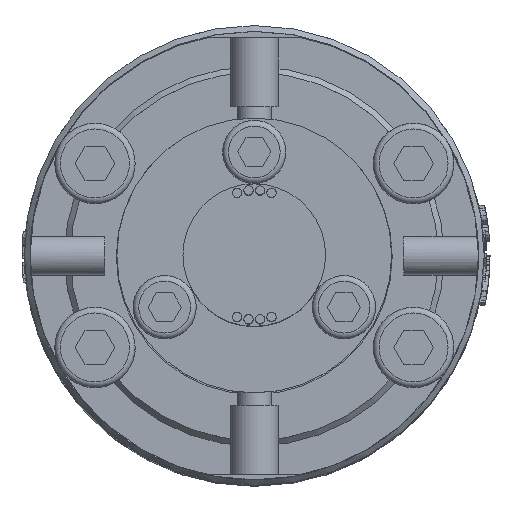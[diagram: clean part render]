
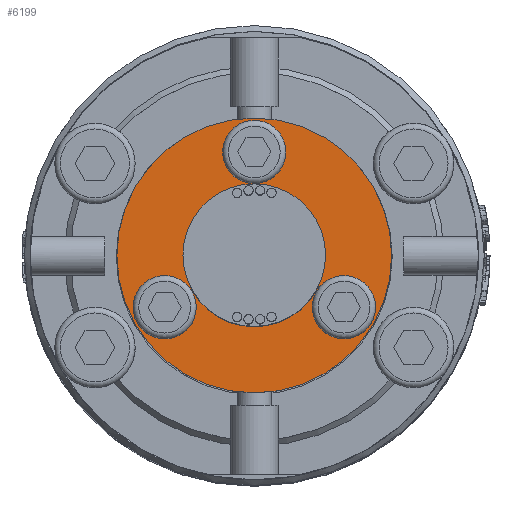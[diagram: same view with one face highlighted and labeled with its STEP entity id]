
A CAD part, top view. The second image highlights one B-rep face of the part: STEP entity #6199.
In plain terms, the highlighted planar face has unit normal (0, 0, 1).
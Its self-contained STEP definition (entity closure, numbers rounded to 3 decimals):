
#6199=ADVANCED_FACE('',(#7846,#7847,#7848,#7849,#7850),#7344,.T.);
#7344=PLANE('',#20862);
#7846=FACE_BOUND('',#8237,.T.);
#7847=FACE_BOUND('',#8238,.T.);
#7848=FACE_BOUND('',#8239,.T.);
#7849=FACE_BOUND('',#8240,.T.);
#7850=FACE_BOUND('',#8241,.T.);
#8237=EDGE_LOOP('',(#9736));
#8238=EDGE_LOOP('',(#9737));
#8239=EDGE_LOOP('',(#9738));
#8240=EDGE_LOOP('',(#9739));
#8241=EDGE_LOOP('',(#9740));
#9736=ORIENTED_EDGE('',*,*,#17651,.F.);
#9737=ORIENTED_EDGE('',*,*,#17652,.F.);
#9738=ORIENTED_EDGE('',*,*,#17653,.F.);
#9739=ORIENTED_EDGE('',*,*,#17650,.F.);
#9740=ORIENTED_EDGE('',*,*,#17654,.F.);
#15582=VERTEX_POINT('',#24843);
#15583=VERTEX_POINT('',#24846);
#15584=VERTEX_POINT('',#24848);
#15585=VERTEX_POINT('',#24850);
#15586=VERTEX_POINT('',#24852);
#17650=EDGE_CURVE('',#15582,#15582,#20569,.T.);
#17651=EDGE_CURVE('',#15583,#15583,#20570,.T.);
#17652=EDGE_CURVE('',#15584,#15584,#20571,.T.);
#17653=EDGE_CURVE('',#15585,#15585,#20572,.T.);
#17654=EDGE_CURVE('',#15586,#15586,#20573,.T.);
#20569=CIRCLE('',#20856,6.2);
#20570=CIRCLE('',#20858,2.75);
#20571=CIRCLE('',#20859,2.75);
#20572=CIRCLE('',#20860,2.75);
#20573=CIRCLE('',#20861,11.95);
#20856=AXIS2_PLACEMENT_3D('',#24842,#21945,#21946);
#20858=AXIS2_PLACEMENT_3D('',#24845,#21949,#21950);
#20859=AXIS2_PLACEMENT_3D('',#24847,#21951,#21952);
#20860=AXIS2_PLACEMENT_3D('',#24849,#21953,#21954);
#20861=AXIS2_PLACEMENT_3D('',#24851,#21955,#21956);
#20862=AXIS2_PLACEMENT_3D('',#24853,#21957,#21958);
#21945=DIRECTION('',(0.,0.,1.));
#21946=DIRECTION('',(0.,1.,0.));
#21949=DIRECTION('',(0.,0.,1.));
#21950=DIRECTION('',(1.,0.,0.));
#21951=DIRECTION('',(0.,0.,1.));
#21952=DIRECTION('',(-0.5,0.866,0.));
#21953=DIRECTION('',(0.,0.,1.));
#21954=DIRECTION('',(-0.5,-0.866,0.));
#21955=DIRECTION('',(0.,0.,-1.));
#21956=DIRECTION('',(0.,1.,0.));
#21957=DIRECTION('',(0.,0.,1.));
#21958=DIRECTION('',(0.,1.,0.));
#24842=CARTESIAN_POINT('',(0.,0.,64.5));
#24843=CARTESIAN_POINT('',(0.,6.2,64.5));
#24845=CARTESIAN_POINT('',(0.,9.,64.5));
#24846=CARTESIAN_POINT('',(2.75,9.,64.5));
#24847=CARTESIAN_POINT('',(-7.794,-4.5,64.5));
#24848=CARTESIAN_POINT('',(-9.169,-2.118,64.5));
#24849=CARTESIAN_POINT('',(7.794,-4.5,64.5));
#24850=CARTESIAN_POINT('',(6.419,-6.882,64.5));
#24851=CARTESIAN_POINT('',(0.,0.,64.5));
#24852=CARTESIAN_POINT('',(0.,11.95,64.5));
#24853=CARTESIAN_POINT('',(0.,0.,64.5));
